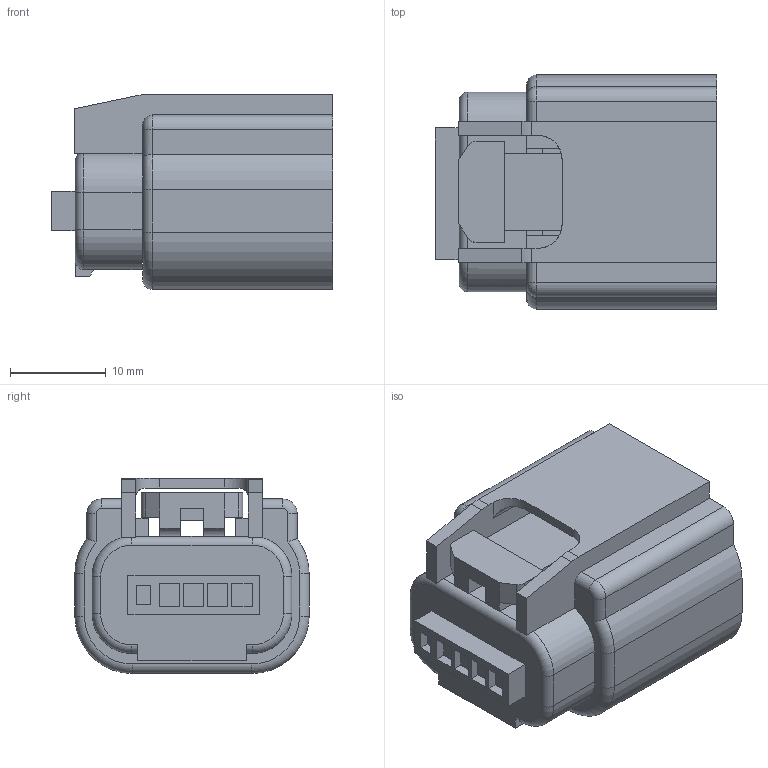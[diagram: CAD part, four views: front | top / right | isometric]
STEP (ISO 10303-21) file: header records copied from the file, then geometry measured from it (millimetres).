
FILE_DESCRIPTION(('CATIA V5 STEP Exchange','CAx-IF Rec.Pracs.--- Model Styling and Organization---1.2---2011-12-15'),'2;1');
FILE_NAME('\\Fss01.ad.sws.co.jp\fs030008\技術管理部\共通\業務\3D設計推進\カタログ用３Ｄ\仮置き\US(Sealed)\6189-7199.stp','2016-02-18T01:52:40+00:00',('none'),('none'),'CATIA Version 5-6 Release 2013 SP5 HF43','CATIA V5 STEP AP214','none');
FILE_SCHEMA(('AUTOMOTIVE_DESIGN { 1 0 10303 214 1 1 1 1 }'));
Length unit declared in the file: millimetre
Products named in the file (1): 6189-7199
Bounding box: 29.45 x 24.5 x 20.4 mm (x, y, z)
Volume: 8078.3 mm3; surface area: 6290 mm2
Topology: 1 solids, 1 shells, 209 faces, 592 edges, 392 vertices
Faces by surface type: plane 149, cylinder 50, torus 10
Entity records: 6594 total; most frequent: CARTESIAN_POINT 1195, ORIENTED_EDGE 1184, DIRECTION 910, EDGE_CURVE 592, VECTOR 468, LINE 468, VERTEX_POINT 392, AXIS2_PLACEMENT_3D 281
